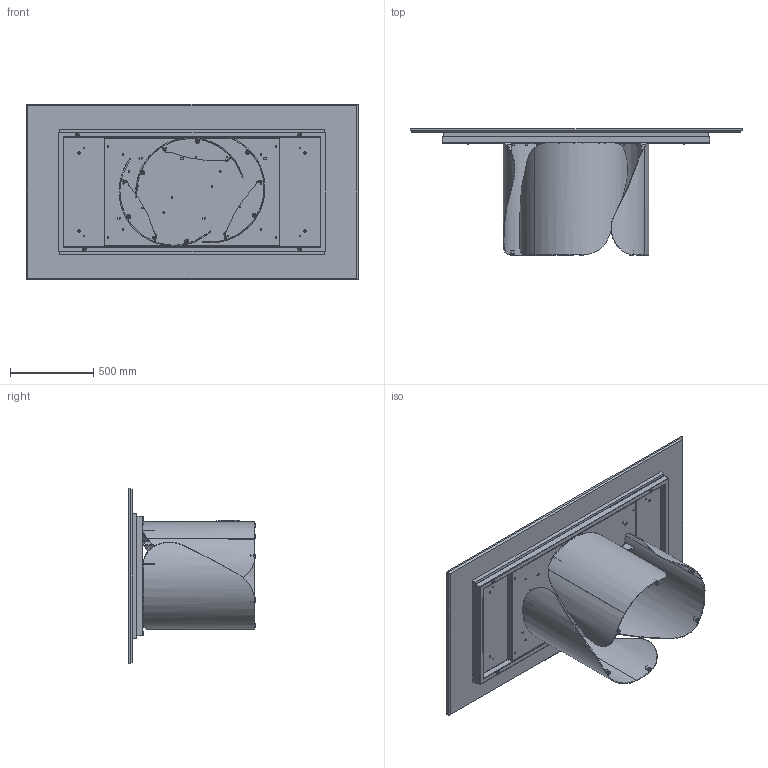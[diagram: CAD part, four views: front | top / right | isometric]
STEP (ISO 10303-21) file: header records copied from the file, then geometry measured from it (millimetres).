
FILE_DESCRIPTION (( 'STEP AP203' ), '1' );
FILE_NAME ('ON21M.STEP', '2024-08-06T13:50:40', ( '' ), ( '' ), 'SwSTEP 2.0', 'SolidWorks 2022', '' );
FILE_SCHEMA (( 'CONFIG_CONTROL_DESIGN' ));
Length unit declared in the file: millimetre
Products named in the file (17): OND000000_03-00-LAMIERA CURVATA PRINCIPALE_OND00000X-00-ONDA BASE GREZZA PROTOTIPO; M2XMXX-00-Piani rettangolari in marmo_2000x1060; COLLO BASE ONDA SINGOLA CON FERRAMENTA; COLLO TELAIO UNIVERSALE TTAV0601 CON FERRAMENTA_FERRAMENTA MTG TOP LEGNO-MARMO-KING; rondella M8_8X24; M8xXXmm_M8x20mm; TTAV0601-00-TELAIO X TAVOLI PLAI ONDA NOA 240cm_TTAV06; OND000000_02-00-CILINDRO DI FISSAGGIO Ø25X17 M8; M8xXXmm_M8x55mm; TTAV0601_01-00-STRUTTURA X TAVOLI PLAI ONDA NOA 240; M2X-00-Piani rettangolari marmo_2000*1060; OND000000-03-ONDA BASE GREZZA; TRUXXXXXX-00-NOBILITATO GR CON SUPP TRUCIOLARE SP. 25_TRU00004_1600x720; OND000000_01-00-PIASTRA SUPERIORE BASE ONDA; PIEDINO PER ONDA; TTAV0601_02-00-VASSOIO TAVOLI PLAI ONDA NOA 240; ON21M
Assembly tree (49 placements, depth 4):
  ON21M
    COLLO TELAIO UNIVERSALE TTAV0601 CON FERRAMENTA_FERRAMENTA MTG TOP LEGNO-MARMO-KING
      TTAV0601-00-TELAIO X TAVOLI PLAI ONDA NOA 240cm_TTAV06
        TTAV0601_02-00-VASSOIO TAVOLI PLAI ONDA NOA 240
        TTAV0601_01-00-STRUTTURA X TAVOLI PLAI ONDA NOA 240
      rondella M8_8X24  x4
      M8xXXmm_M8x55mm  x4
    COLLO BASE ONDA SINGOLA CON FERRAMENTA  x3
      OND000000-03-ONDA BASE GREZZA
        OND000000_03-00-LAMIERA CURVATA PRINCIPALE_OND00000X-00-ONDA BASE GREZZA PROTOTIPO
        OND000000_01-00-PIASTRA SUPERIORE BASE ONDA
        OND000000_02-00-CILINDRO DI FISSAGGIO Ø25X17 M8  x2
      PIEDINO PER ONDA
    rondella M8_8X24  x12
    M8xXXmm_M8x20mm  x12
    M2XMXX-00-Piani rettangolari in marmo_2000x1060
      M2X-00-Piani rettangolari marmo_2000*1060
      TRUXXXXXX-00-NOBILITATO GR CON SUPP TRUCIOLARE SP. 25_TRU00004_1600x720
Bounding box: 2000 x 761 x 1060 mm (x, y, z)
Volume: 84965905.3 mm3; surface area: 13138022.7 mm2
Topology: 60 solids, 60 shells, 1769 faces, 4043 edges, 2401 vertices
Faces by surface type: plane 632, cylinder 551, cone 302, torus 216, bspline 60, sphere 8
Entity records: 24988 total; most frequent: CARTESIAN_POINT 5472, DIRECTION 3673, ORIENTED_EDGE 3350, EDGE_CURVE 1675, AXIS2_PLACEMENT_3D 1386, VERTEX_POINT 1025, VECTOR 901, LINE 901
